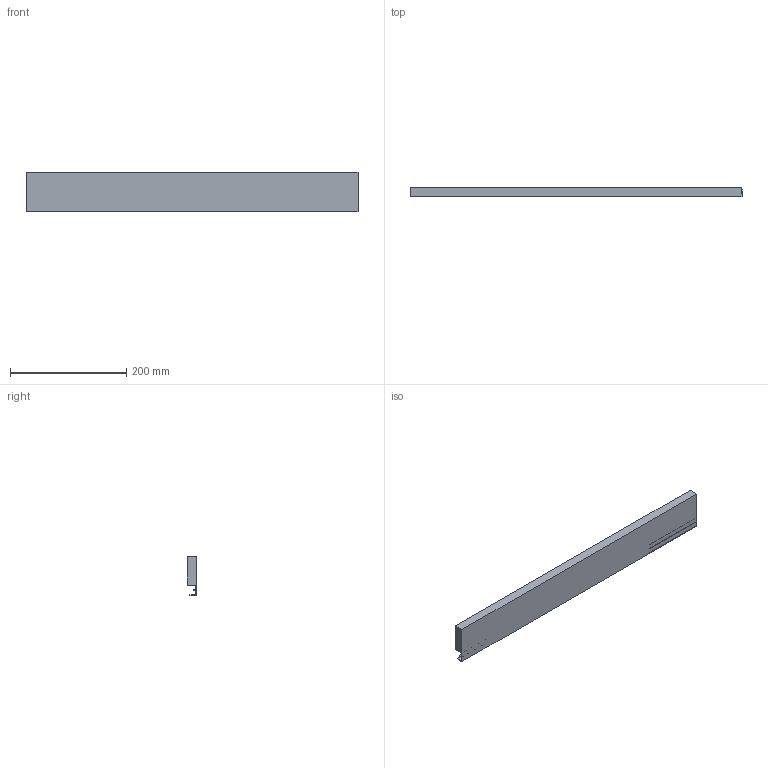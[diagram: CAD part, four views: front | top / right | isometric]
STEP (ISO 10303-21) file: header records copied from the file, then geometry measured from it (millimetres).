
FILE_DESCRIPTION (( 'STEP AP214' ), '1' );
FILE_NAME ('Innenschub-Blendenprofil_KAB700_S19.step', '2010-09-23T12:27:10', ( 'grass' ), ( '' ), 'SwSTEP 2.0', 'SolidWorks 2010', '' );
FILE_SCHEMA (( 'AUTOMOTIVE_DESIGN' ));
Length unit declared in the file: millimetre
Products named in the file (1): Innenschub-Blendenprofil_KAB700_S19
Bounding box: 571 x 15.9 x 67.6 mm (x, y, z)
Volume: 473442.8 mm3; surface area: 113723.2 mm2
Topology: 1 solids, 1 shells, 17 faces, 42 edges, 28 vertices
Faces by surface type: plane 15, cylinder 2
Entity records: 534 total; most frequent: CARTESIAN_POINT 88, ORIENTED_EDGE 84, DIRECTION 82, EDGE_CURVE 42, LINE 38, VECTOR 38, VERTEX_POINT 28, AXIS2_PLACEMENT_3D 22
